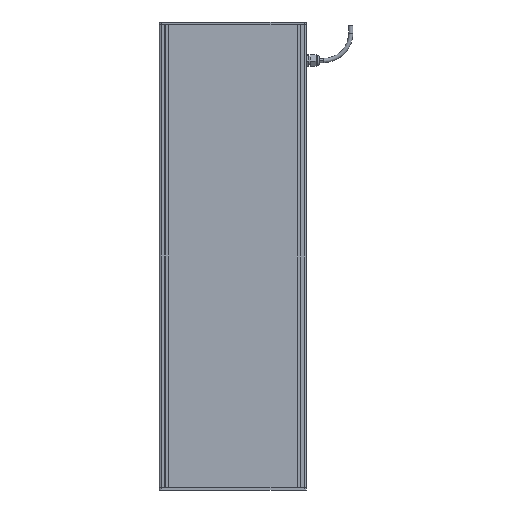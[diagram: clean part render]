
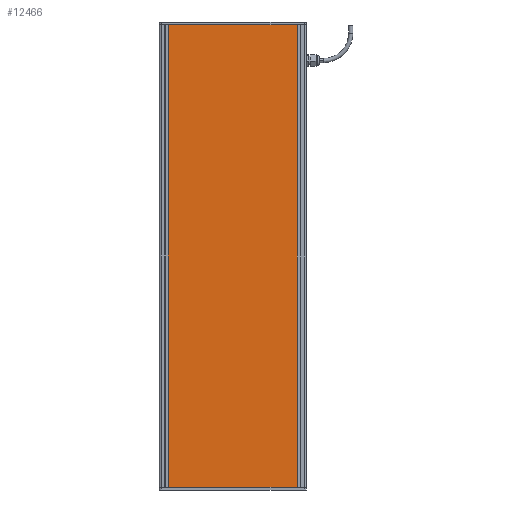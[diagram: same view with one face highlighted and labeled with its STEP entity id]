
A CAD part, front view. The second image highlights one B-rep face of the part: STEP entity #12466.
In plain terms, the highlighted planar face has unit normal (0, -1, 0) as drawn and (0, 0, 1) by its records, which use the part's own axes.
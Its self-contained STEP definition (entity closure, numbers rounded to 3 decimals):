
#1046 = VECTOR ( 'NONE', #7218, 1000. ) ;
#2903 = CARTESIAN_POINT ( 'NONE',  ( -259., 0., 0. ) ) ;
#3019 = DIRECTION ( 'NONE',  ( 0., 0., -1. ) ) ;
#3673 = CARTESIAN_POINT ( 'NONE',  ( -259., -900., 0. ) ) ;
#4294 = EDGE_LOOP ( 'NONE', ( #6749, #15043, #13617, #12779 ) ) ;
#5829 = VECTOR ( 'NONE', #10266, 1000. ) ;
#6167 = LINE ( 'NONE', #13266, #11587 ) ;
#6749 = ORIENTED_EDGE ( 'NONE', *, *, #9381, .T. ) ;
#6815 = CARTESIAN_POINT ( 'NONE',  ( 0., 0., 0. ) ) ;
#7127 = DIRECTION ( 'NONE',  ( 0., -1., 0. ) ) ;
#7200 = DIRECTION ( 'NONE',  ( 1., 0., 0. ) ) ;
#7218 = DIRECTION ( 'NONE',  ( 0., 1., 0. ) ) ;
#8009 = CARTESIAN_POINT ( 'NONE',  ( -9., 0., 0. ) ) ;
#8325 = VERTEX_POINT ( 'NONE', #2903 ) ;
#8391 = LINE ( 'NONE', #13181, #14805 ) ;
#8971 = EDGE_CURVE ( 'NONE', #9611, #8325, #11220, .T. ) ;
#9174 = PLANE ( 'NONE',  #11790 ) ;
#9381 = EDGE_CURVE ( 'NONE', #10103, #9611, #11956, .T. ) ;
#9611 = VERTEX_POINT ( 'NONE', #8009 ) ;
#10103 = VERTEX_POINT ( 'NONE', #11057 ) ;
#10266 = DIRECTION ( 'NONE',  ( -1., 0., 0. ) ) ;
#11057 = CARTESIAN_POINT ( 'NONE',  ( -9., -900., 0. ) ) ;
#11220 = LINE ( 'NONE', #14815, #5829 ) ;
#11587 = VECTOR ( 'NONE', #7127, 1000. ) ;
#11698 = DIRECTION ( 'NONE',  ( -1., 0., 0. ) ) ;
#11790 = AXIS2_PLACEMENT_3D ( 'NONE', #6815, #3019, #11698 ) ;
#11805 = CARTESIAN_POINT ( 'NONE',  ( -9., 0., 0. ) ) ;
#11906 = VERTEX_POINT ( 'NONE', #3673 ) ;
#11956 = LINE ( 'NONE', #11805, #1046 ) ;
#12466 = ADVANCED_FACE ( 'NONE', ( #15061 ), #9174, .F. ) ;
#12779 = ORIENTED_EDGE ( 'NONE', *, *, #13517, .T. ) ;
#13181 = CARTESIAN_POINT ( 'NONE',  ( -9., -900., 0. ) ) ;
#13266 = CARTESIAN_POINT ( 'NONE',  ( -259., 0., 0. ) ) ;
#13517 = EDGE_CURVE ( 'NONE', #11906, #10103, #8391, .T. ) ;
#13617 = ORIENTED_EDGE ( 'NONE', *, *, #14370, .T. ) ;
#14370 = EDGE_CURVE ( 'NONE', #8325, #11906, #6167, .T. ) ;
#14805 = VECTOR ( 'NONE', #7200, 1000. ) ;
#14815 = CARTESIAN_POINT ( 'NONE',  ( -9., 0., 0. ) ) ;
#15043 = ORIENTED_EDGE ( 'NONE', *, *, #8971, .T. ) ;
#15061 = FACE_OUTER_BOUND ( 'NONE', #4294, .T. ) ;
